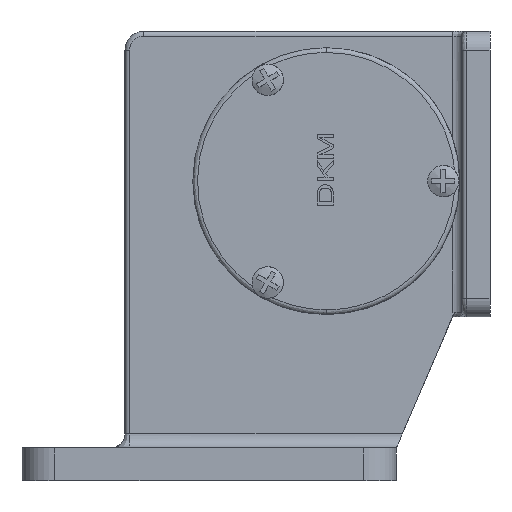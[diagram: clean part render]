
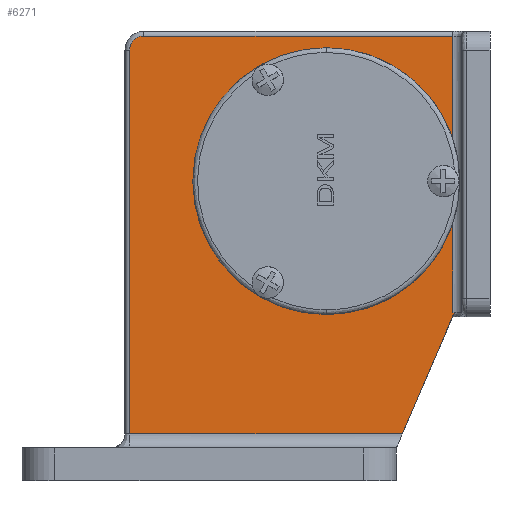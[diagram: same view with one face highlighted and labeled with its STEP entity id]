
A CAD part, left-side view. The second image highlights one B-rep face of the part: STEP entity #6271.
In plain terms, the highlighted planar face has unit normal (-1, 0, 0).
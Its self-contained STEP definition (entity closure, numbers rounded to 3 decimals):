
#152 = CARTESIAN_POINT ( 'NONE',  ( -18., 75.757, 31. ) ) ;
#370 = CARTESIAN_POINT ( 'NONE',  ( -18., 74., 31. ) ) ;
#513 = ORIENTED_EDGE ( 'NONE', *, *, #3285, .F. ) ;
#552 = VERTEX_POINT ( 'NONE', #12952 ) ;
#583 = CARTESIAN_POINT ( 'NONE',  ( -18., 35., 0. ) ) ;
#933 = DIRECTION ( 'NONE',  ( 0., 0., -1. ) ) ;
#1103 = CIRCLE ( 'NONE', #10080, 28.5 ) ;
#1187 = ORIENTED_EDGE ( 'NONE', *, *, #8790, .F. ) ;
#1259 = CARTESIAN_POINT ( 'NONE',  ( -18., 35., -28.5 ) ) ;
#1375 = CARTESIAN_POINT ( 'NONE',  ( -18., 8., -11.5 ) ) ;
#1590 = LINE ( 'NONE', #1375, #11371 ) ;
#1702 = VERTEX_POINT ( 'NONE', #9174 ) ;
#1729 = CARTESIAN_POINT ( 'NONE',  ( -18., 7.67, -28.231 ) ) ;
#1799 = DIRECTION ( 'NONE',  ( -1., 0., 0. ) ) ;
#1928 = ORIENTED_EDGE ( 'NONE', *, *, #9224, .F. ) ;
#2006 = VERTEX_POINT ( 'NONE', #3344 ) ;
#2473 = CARTESIAN_POINT ( 'NONE',  ( -18., 8., 9.124 ) ) ;
#2505 = AXIS2_PLACEMENT_3D ( 'NONE', #6604, #6458, #9845 ) ;
#2514 = CIRCLE ( 'NONE', #8418, 28.5 ) ;
#2624 = CARTESIAN_POINT ( 'NONE',  ( -18., 47.682, -54. ) ) ;
#2664 = ORIENTED_EDGE ( 'NONE', *, *, #12839, .T. ) ;
#2719 = EDGE_CURVE ( 'NONE', #3214, #4947, #12537, .T. ) ;
#2822 = DIRECTION ( 'NONE',  ( 0., 0., -1. ) ) ;
#3214 = VERTEX_POINT ( 'NONE', #11022 ) ;
#3285 = EDGE_CURVE ( 'NONE', #4147, #552, #2514, .T. ) ;
#3306 = PLANE ( 'NONE',  #2505 ) ;
#3344 = CARTESIAN_POINT ( 'NONE',  ( -18., 77., -54. ) ) ;
#3444 = VERTEX_POINT ( 'NONE', #370 ) ;
#3579 = ORIENTED_EDGE ( 'NONE', *, *, #7777, .F. ) ;
#3724 = VECTOR ( 'NONE', #4073, 1000. ) ;
#3838 = CARTESIAN_POINT ( 'NONE',  ( -18., 7.67, -28.231 ) ) ;
#3850 = DIRECTION ( 'NONE',  ( -1., 0., 0. ) ) ;
#3883 = EDGE_CURVE ( 'NONE', #6260, #1702, #9758, .T. ) ;
#3949 = LINE ( 'NONE', #2624, #13568 ) ;
#4073 = DIRECTION ( 'NONE',  ( 0., -0.394, 0.919 ) ) ;
#4147 = VERTEX_POINT ( 'NONE', #2473 ) ;
#4277 = LINE ( 'NONE', #4445, #12895 ) ;
#4445 = CARTESIAN_POINT ( 'NONE',  ( -18., 41., 31. ) ) ;
#4848 =( BOUNDED_CURVE ( )  B_SPLINE_CURVE ( 3, ( #12221, #13262, #152, #8783 ),
 .UNSPECIFIED., .F., .F. ) 
 B_SPLINE_CURVE_WITH_KNOTS ( ( 4, 4 ),
 ( 0., 1. ),
 .UNSPECIFIED. ) 
 CURVE ( )  GEOMETRIC_REPRESENTATION_ITEM ( )  RATIONAL_B_SPLINE_CURVE ( ( 0.957, 0.77, 0.77, 0.957 ) ) 
 REPRESENTATION_ITEM ( '' )  );
#4857 = FACE_OUTER_BOUND ( 'NONE', #11836, .T. ) ;
#4947 = VERTEX_POINT ( 'NONE', #1729 ) ;
#4989 = AXIS2_PLACEMENT_3D ( 'NONE', #6196, #11624, #10536 ) ;
#5403 = ORIENTED_EDGE ( 'NONE', *, *, #10452, .T. ) ;
#5540 = DIRECTION ( 'NONE',  ( 0., 1., 0. ) ) ;
#5566 = VERTEX_POINT ( 'NONE', #12647 ) ;
#5644 = CARTESIAN_POINT ( 'NONE',  ( -18., 8., 31. ) ) ;
#5672 = ORIENTED_EDGE ( 'NONE', *, *, #2719, .F. ) ;
#5753 = DIRECTION ( 'NONE',  ( 0., 1., 0. ) ) ;
#6196 = CARTESIAN_POINT ( 'NONE',  ( -18., 35., 0. ) ) ;
#6260 = VERTEX_POINT ( 'NONE', #1259 ) ;
#6271 = ADVANCED_FACE ( 'NONE', ( #4857 ), #3306, .F. ) ;
#6458 = DIRECTION ( 'NONE',  ( 1., 0., 0. ) ) ;
#6604 = CARTESIAN_POINT ( 'NONE',  ( -18., 7.254, 31. ) ) ;
#6832 = CARTESIAN_POINT ( 'NONE',  ( -18., 18.714, -54. ) ) ;
#7096 = CARTESIAN_POINT ( 'NONE',  ( -18., 7.894, -28.074 ) ) ;
#7139 = CARTESIAN_POINT ( 'NONE',  ( -18., 35., 0. ) ) ;
#7146 = VECTOR ( 'NONE', #8581, 1000. ) ;
#7160 = ORIENTED_EDGE ( 'NONE', *, *, #8298, .F. ) ;
#7395 = CARTESIAN_POINT ( 'NONE',  ( -18., 8., -11.5 ) ) ;
#7484 = LINE ( 'NONE', #13946, #7146 ) ;
#7777 = EDGE_CURVE ( 'NONE', #552, #6260, #1103, .T. ) ;
#7920 = LINE ( 'NONE', #11574, #3724 ) ;
#8063 = ORIENTED_EDGE ( 'NONE', *, *, #10857, .T. ) ;
#8137 = CARTESIAN_POINT ( 'NONE',  ( -18., 7.785, -28.152 ) ) ;
#8298 = EDGE_CURVE ( 'NONE', #10992, #2006, #3949, .T. ) ;
#8418 = AXIS2_PLACEMENT_3D ( 'NONE', #7139, #1799, #10479 ) ;
#8581 = DIRECTION ( 'NONE',  ( 0., 0., -1. ) ) ;
#8752 = EDGE_CURVE ( 'NONE', #1702, #3214, #1590, .T. ) ;
#8783 = CARTESIAN_POINT ( 'NONE',  ( -18., 74., 31. ) ) ;
#8790 = EDGE_CURVE ( 'NONE', #5566, #3444, #4848, .T. ) ;
#8831 = DIRECTION ( 'NONE',  ( 0., 0., -1. ) ) ;
#8875 = ORIENTED_EDGE ( 'NONE', *, *, #8752, .F. ) ;
#9163 = VECTOR ( 'NONE', #933, 1000. ) ;
#9174 = CARTESIAN_POINT ( 'NONE',  ( -18., 8., -9.124 ) ) ;
#9224 = EDGE_CURVE ( 'NONE', #12283, #4147, #12061, .T. ) ;
#9758 = CIRCLE ( 'NONE', #4989, 28.5 ) ;
#9845 = DIRECTION ( 'NONE',  ( 0., 0., -1. ) ) ;
#10080 = AXIS2_PLACEMENT_3D ( 'NONE', #583, #3850, #2822 ) ;
#10452 = EDGE_CURVE ( 'NONE', #12283, #3444, #4277, .T. ) ;
#10479 = DIRECTION ( 'NONE',  ( 0., 0., -1. ) ) ;
#10536 = DIRECTION ( 'NONE',  ( 0., 0., -1. ) ) ;
#10857 = EDGE_CURVE ( 'NONE', #5566, #2006, #7484, .T. ) ;
#10992 = VERTEX_POINT ( 'NONE', #6832 ) ;
#11022 = CARTESIAN_POINT ( 'NONE',  ( -18., 8., -28. ) ) ;
#11371 = VECTOR ( 'NONE', #8831, 1000. ) ;
#11481 = CARTESIAN_POINT ( 'NONE',  ( -18., 8., -28. ) ) ;
#11574 = CARTESIAN_POINT ( 'NONE',  ( -18., 13.798, -42.529 ) ) ;
#11624 = DIRECTION ( 'NONE',  ( -1., 0., 0. ) ) ;
#11836 = EDGE_LOOP ( 'NONE', ( #7160, #2664, #5672, #8875, #13614, #3579, #513, #1928, #5403, #1187, #8063 ) ) ;
#12061 = LINE ( 'NONE', #7395, #9163 ) ;
#12221 = CARTESIAN_POINT ( 'NONE',  ( -18., 77., 28. ) ) ;
#12283 = VERTEX_POINT ( 'NONE', #5644 ) ;
#12537 = B_SPLINE_CURVE_WITH_KNOTS ( 'NONE', 3,
 ( #11481, #7096, #8137, #3838 ),
 .UNSPECIFIED., .F., .F.,
 ( 4, 4 ),
 ( 0., 1. ),
 .UNSPECIFIED. ) ;
#12647 = CARTESIAN_POINT ( 'NONE',  ( -18., 77., 28. ) ) ;
#12839 = EDGE_CURVE ( 'NONE', #10992, #4947, #7920, .T. ) ;
#12895 = VECTOR ( 'NONE', #5540, 1000. ) ;
#12952 = CARTESIAN_POINT ( 'NONE',  ( -18., 35., 28.5 ) ) ;
#13262 = CARTESIAN_POINT ( 'NONE',  ( -18., 77., 29.757 ) ) ;
#13568 = VECTOR ( 'NONE', #5753, 1000. ) ;
#13614 = ORIENTED_EDGE ( 'NONE', *, *, #3883, .F. ) ;
#13946 = CARTESIAN_POINT ( 'NONE',  ( -18., 77., -13. ) ) ;
